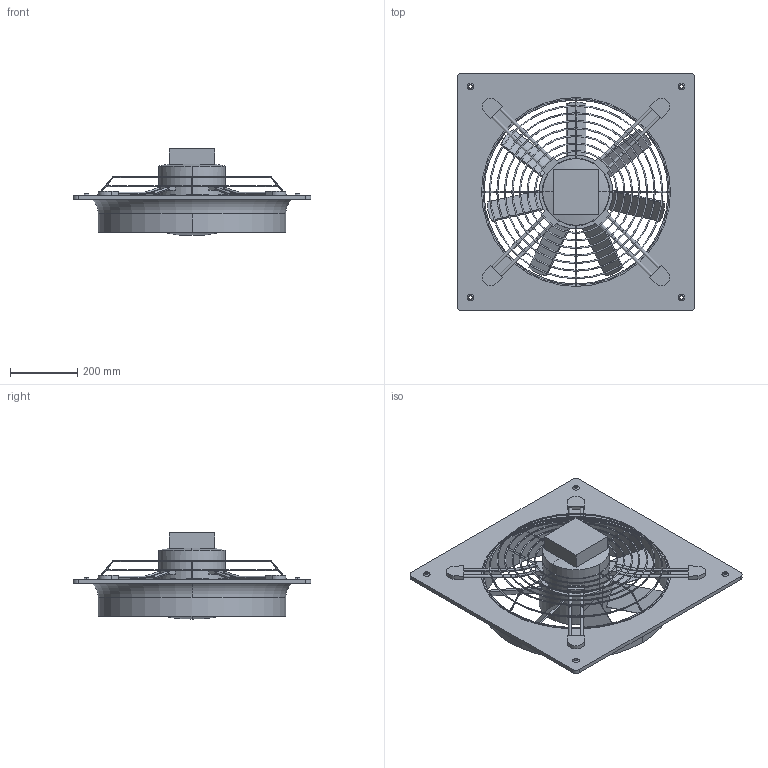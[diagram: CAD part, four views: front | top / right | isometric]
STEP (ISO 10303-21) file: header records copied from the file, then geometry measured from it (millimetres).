
FILE_DESCRIPTION(('STEP AP214'),'1');
FILE_NAME('fan_5603644500.stp','2017-07-24T07:55:20',('TraceParts'),('TraceParts S.A.'),'Spatial InterOp 3D',' ',' ');
FILE_SCHEMA(('automotive_design'));
Length unit declared in the file: millimetre
Products named in the file (1): fan_5603644500
Bounding box: 710 x 710 x 256.97 mm (x, y, z)
Volume: 13345866.2 mm3; surface area: 1500267.8 mm2
Topology: 1 solids, 1 shells, 315 faces, 919 edges, 561 vertices
Faces by surface type: cylinder 129, plane 90, torus 68, cone 16, sphere 12
Entity records: 19923 total; most frequent: CARTESIAN_POINT 9312, ORIENTED_EDGE 1822, DIRECTION 1553, EDGE_CURVE 911, AXIS2_PLACEMENT_3D 634, VERTEX_POINT 561, EDGE_LOOP 382, STYLED_ITEM 315
